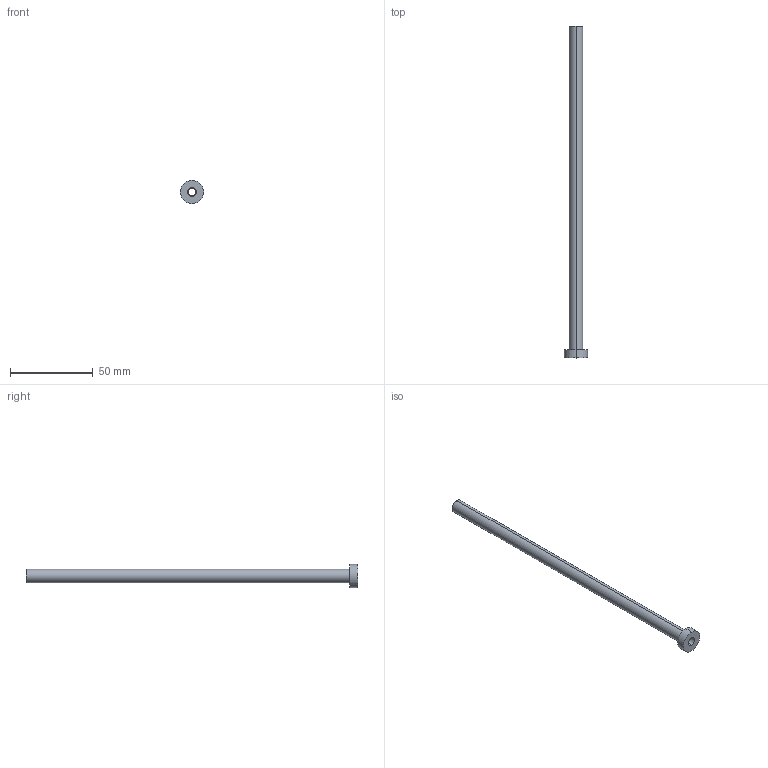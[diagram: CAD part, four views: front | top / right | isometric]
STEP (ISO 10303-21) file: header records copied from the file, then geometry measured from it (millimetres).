
FILE_DESCRIPTION (( 'STEP AP214' ), '1' );
FILE_NAME ('ET-ETN-4,5x200.STEP', '2019-12-16T15:13:45', ( 'August' ), ( '' ), 'SwSTEP 2.0', 'SolidWorks 2018', '' );
FILE_SCHEMA (( 'AUTOMOTIVE_DESIGN' ));
Length unit declared in the file: millimetre
Products named in the file (1): ET-ETN-4,5x200
Bounding box: 14 x 200 x 14 mm (x, y, z)
Volume: 6437.4 mm3; surface area: 8609.7 mm2
Topology: 1 solids, 1 shells, 13 faces, 26 edges, 16 vertices
Faces by surface type: cylinder 8, plane 3, cone 2
Entity records: 382 total; most frequent: DIRECTION 70, CARTESIAN_POINT 56, ORIENTED_EDGE 52, AXIS2_PLACEMENT_3D 30, EDGE_CURVE 26, CIRCLE 16, EDGE_LOOP 16, VERTEX_POINT 16
